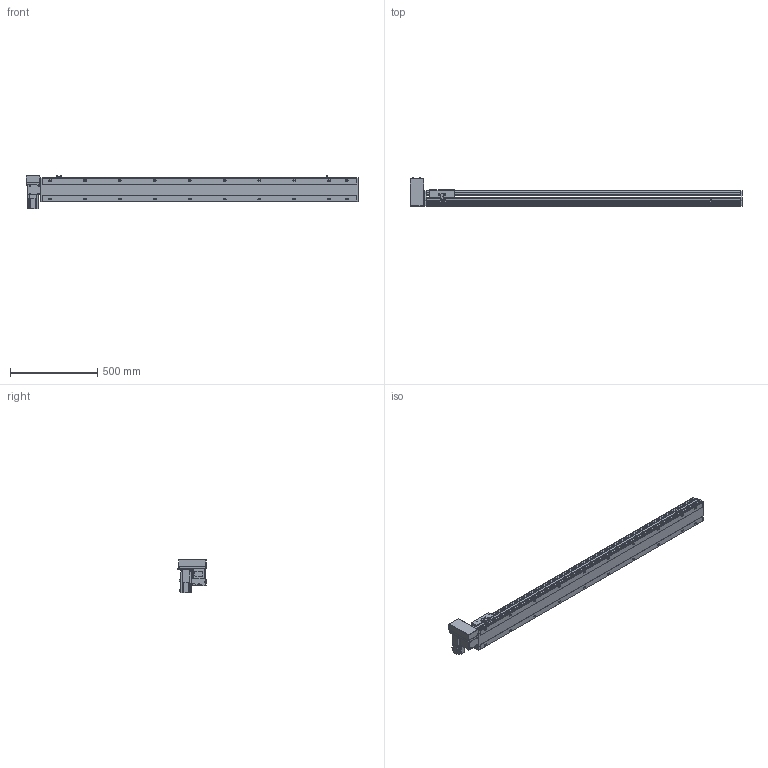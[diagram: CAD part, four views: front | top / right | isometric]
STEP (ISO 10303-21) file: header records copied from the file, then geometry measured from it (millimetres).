
FILE_DESCRIPTION( ( 'STEP AP214' ), '1' );
FILE_NAME( 'x:/temp/worker_6/temp/exporttempdir_5396_220_vlk9p/format_0/PBS140S-P40-S1550-RU-T40-C1-N(0).stp', '2022-06-09T00:55:42', ( 'License CC BY-ND 4.0' ), ( 'CADENAS' ), ' ', 'PARTsolutions', ' ' );
FILE_SCHEMA( ( 'AUTOMOTIVE_DESIGN { 1 0 10303 214 1 1 1 1 }' ) );
Length unit declared in the file: millimetre
Products named in the file (7): PBS140S-P40-S1550-RU-T40-C1-N(0); _PBS140S-S1550()_body; _PBS140ST-RU_motors; _T40-p1; _PBS140S_sliser; _PBS140S_plant; _PBS140S_sensor
Assembly tree (8 placements, depth 2):
  PBS140S-P40-S1550-RU-T40-C1-N(0)
    _PBS140S-S1550()_body
    _PBS140ST-RU_motors
    _T40-p1
    _PBS140S_sliser
    _PBS140S_plant
    _PBS140S_sensor  x3
Bounding box: 1904 x 162.5 x 189.7 mm (x, y, z)
Volume: 9543415.4 mm3; surface area: 1629178.2 mm2
Topology: 8 solids, 8 shells, 1131 faces, 2991 edges, 1957 vertices
Faces by surface type: plane 714, cylinder 361, cone 46, sphere 8, torus 2
Full cylindrical faces by diameter (mm): 3.242 x4, 4 x2, 4.134 x4, 4.4 x8, 4.5 x2, 4.8 x4, 4.917 x28, 5.5 x7, 6 x2, 7 x22, 7.5 x8, 8 x12, 8.5 x4, 10.5 x20, 14 x1, 30 x2, 50 x2
Entity records: 41620 total; most frequent: CARTESIAN_POINT 6742, DIRECTION 5488, ORIENTED_EDGE 5182, EDGE_CURVE 2591, AXIS2_PLACEMENT_3D 1919, VERTEX_POINT 1801, LINE 1650, VECTOR 1650
